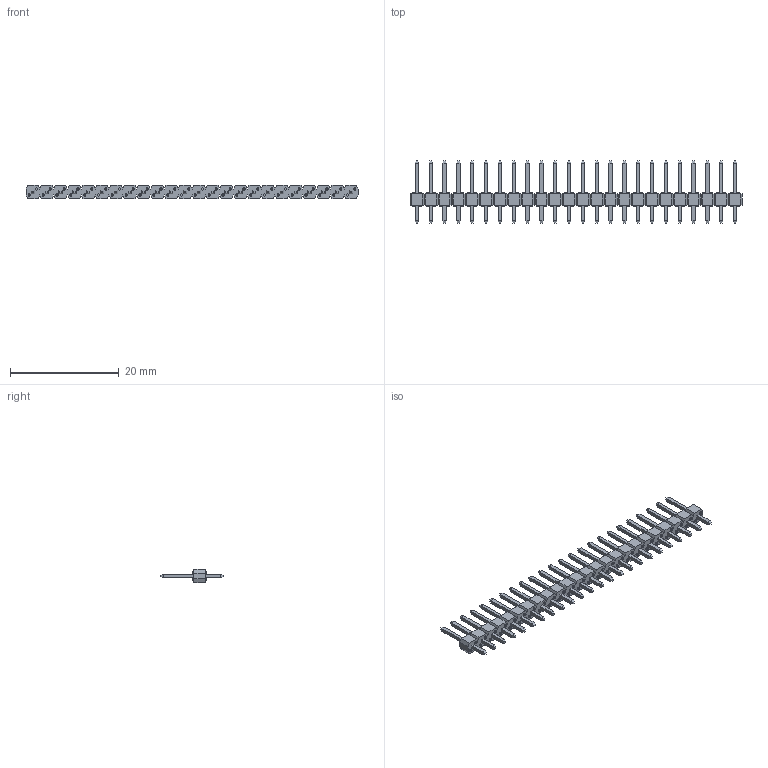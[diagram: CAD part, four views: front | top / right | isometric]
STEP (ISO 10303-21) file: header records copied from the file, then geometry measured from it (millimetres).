
FILE_DESCRIPTION (( 'STEP AP214' ), '1' );
FILE_NAME ('68001424HLF.STEP', '2023-05-18T08:34:09', ( '' ), ( '' ), 'SwSTEP 2.0', 'SolidWorks 2021', '' );
FILE_SCHEMA (( 'AUTOMOTIVE_DESIGN' ));
Length unit declared in the file: millimetre
Products named in the file (3): 68000 body_24; pin^68000 Tin; 68001424HLF
Assembly tree (25 placements, depth 2):
  68001424HLF
    68000 body_24
    pin^68000 Tin  x24
Bounding box: 60.96 x 11.43 x 2.41 mm (x, y, z)
Volume: 384.5 mm3; surface area: 1460.5 mm2
Topology: 25 solids, 25 shells, 868 faces, 1974 edges, 1252 vertices
Faces by surface type: plane 676, cylinder 192
Entity records: 16424 total; most frequent: DIRECTION 2862, CARTESIAN_POINT 2788, ORIENTED_EDGE 2660, EDGE_CURVE 1330, AXIS2_PLACEMENT_3D 958, LINE 946, VECTOR 946, VERTEX_POINT 884
